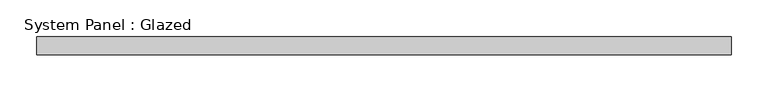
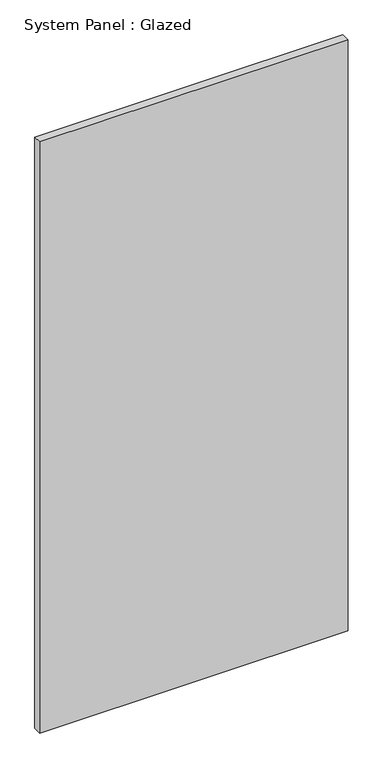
"""IFC4 building model written with IfcOpenShell, lengths in millimetres: plate geometry, System Panel : Glazed."""

from ifc_helpers import new_model, si_unit, origin, origin_with_axes, place, context, project, spatial, polyline, outline, extrude, source, transform, mapped, element, save


def system_panel_glazed_883c1928(model_context):
    return source(origin(), model_context, "Body", "SweptSolid", [
        extrude(outline(polyline([(475.0, -49.5), (-475.0, -49.5), (-475.0, -24.5), (475.0, -24.5), (475.0, -49.5)])), origin_with_axes(), (0.0, 0.0, 1.0), 1925.0),
    ])


if __name__ == "__main__":
    model = new_model("IFC4")
    model_context = context("Model", 3, world=origin())
    ifc_project = project(units=[si_unit("LENGTHUNIT", "METRE", prefix="MILLI")], contexts=[model_context])
    site = spatial("IfcSite", under=ifc_project)
    building = spatial("IfcBuilding", under=site)
    placement = place(None, origin())
    system_panel_glazed_shape = system_panel_glazed_883c1928(model_context)
    element("IfcPlate", 1, ObjectType="System Panel : Glazed", at=placement, inside=building, context=model_context, shape_type="MappedRepresentation", body=[
        mapped(system_panel_glazed_shape, transform((0.0, 0.0, 0.0), x_axis=(1.0, 0.0, 0.0), y_axis=(0.0, 1.0, 0.0), z_axis=(0.0, 0.0, 1.0))),
    ])
    save(model, "model.ifc")
